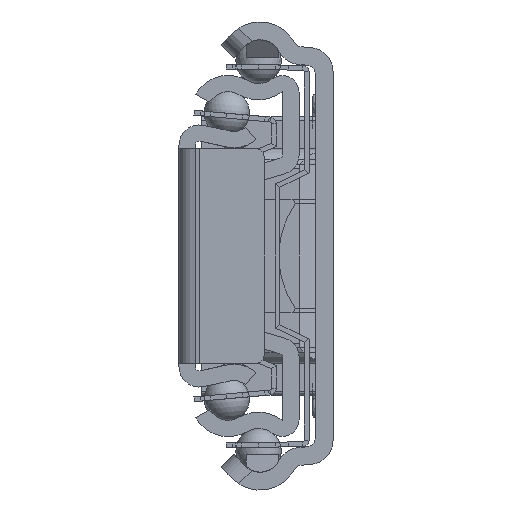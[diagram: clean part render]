
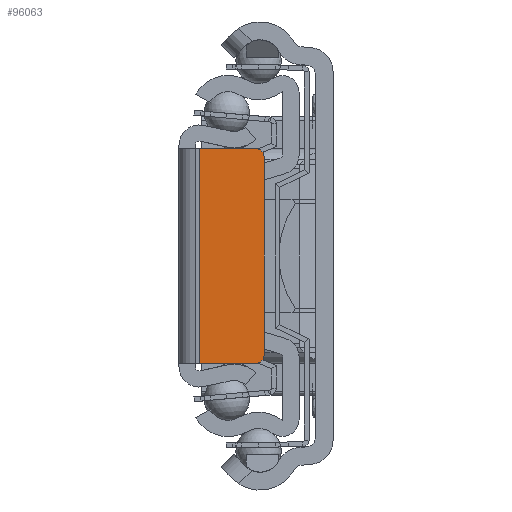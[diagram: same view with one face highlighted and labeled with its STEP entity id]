
A CAD part, left-side view. The second image highlights one B-rep face of the part: STEP entity #96063.
In plain terms, the highlighted planar face has unit normal (-1, 0, 0).
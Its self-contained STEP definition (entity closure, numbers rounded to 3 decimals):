
#91402=CARTESIAN_POINT('',(0.,-9.,-12.25));
#91403=DIRECTION('',(-1.,0.,0.));
#91404=DIRECTION('',(0.,0.,-1.));
#91405=AXIS2_PLACEMENT_3D('',#91402,#91403,#91404);
#91407=DIRECTION('',(0.,0.,-1.));
#91408=VECTOR('',#91407,26.5);
#91409=CARTESIAN_POINT('',(0.,-2.,13.25));
#91410=LINE('',#91409,#91408);
#91411=CARTESIAN_POINT('',(0.,-9.,12.25));
#91412=DIRECTION('',(-1.,0.,0.));
#91413=DIRECTION('',(0.,-1.,0.));
#91414=AXIS2_PLACEMENT_3D('',#91411,#91412,#91413);
#91433=DIRECTION('',(0.,-1.,0.));
#91434=VECTOR('',#91433,7.);
#91435=CARTESIAN_POINT('',(0.,-2.,-13.25));
#91436=LINE('',#91435,#91434);
#92283=DIRECTION('',(0.,-1.,0.));
#92284=VECTOR('',#92283,7.);
#92285=CARTESIAN_POINT('',(0.,-2.,13.25));
#92286=LINE('',#92285,#92284);
#92304=DIRECTION('',(0.,0.,1.));
#92305=VECTOR('',#92304,24.5);
#92306=CARTESIAN_POINT('',(0.,-10.,-12.25));
#92307=LINE('',#92306,#92305);
#95048=CARTESIAN_POINT('',(0.,-2.,-13.25));
#95050=VERTEX_POINT('',#95048);
#95057=CARTESIAN_POINT('',(0.,-2.,13.25));
#95059=VERTEX_POINT('',#95057);
#95076=CARTESIAN_POINT('',(0.,-9.,-13.25));
#95077=CARTESIAN_POINT('',(0.,-10.,-12.25));
#95078=VERTEX_POINT('',#95076);
#95079=VERTEX_POINT('',#95077);
#95088=CARTESIAN_POINT('',(0.,-10.,12.25));
#95089=VERTEX_POINT('',#95088);
#95090=CARTESIAN_POINT('',(0.,-9.,13.25));
#95091=VERTEX_POINT('',#95090);
#96045=CARTESIAN_POINT('',(0.,0.5,-13.25));
#96046=DIRECTION('',(-1.,0.,0.));
#96047=DIRECTION('',(0.,-1.,0.));
#96048=AXIS2_PLACEMENT_3D('',#96045,#96046,#96047);
#96049=PLANE('',#96048);
#96050=ORIENTED_EDGE('',*,*,#96035,.F.);
#96052=ORIENTED_EDGE('',*,*,#96051,.F.);
#96054=ORIENTED_EDGE('',*,*,#96053,.F.);
#96056=ORIENTED_EDGE('',*,*,#96055,.T.);
#96058=ORIENTED_EDGE('',*,*,#96057,.F.);
#96060=ORIENTED_EDGE('',*,*,#96059,.F.);
#96061=EDGE_LOOP('',(#96050,#96052,#96054,#96056,#96058,#96060));
#96062=FACE_OUTER_BOUND('',#96061,.F.);
#91406=CIRCLE('',#91405,1.);
#91415=CIRCLE('',#91414,1.);
#96035=EDGE_CURVE('',#95078,#95079,#91406,.T.);
#96051=EDGE_CURVE('',#95050,#95078,#91436,.T.);
#96053=EDGE_CURVE('',#95059,#95050,#91410,.T.);
#96055=EDGE_CURVE('',#95059,#95091,#92286,.T.);
#96057=EDGE_CURVE('',#95089,#95091,#91415,.T.);
#96059=EDGE_CURVE('',#95079,#95089,#92307,.T.);
#96063=ADVANCED_FACE('',(#96062),#96049,.T.);
